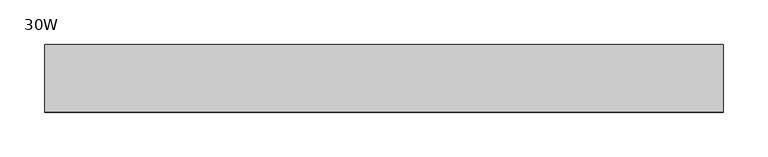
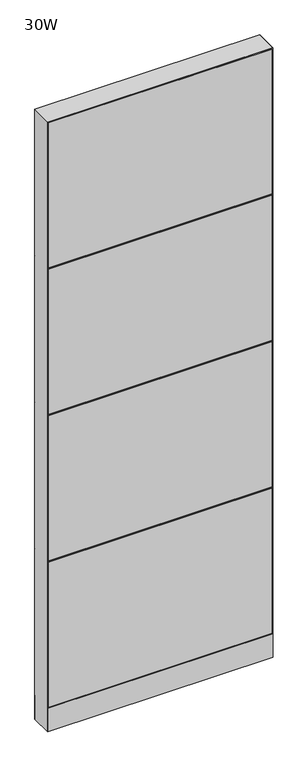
"""IFC4 building model written with IfcOpenShell, lengths in millimetres: furniture geometry, Steelcase - Montage - Frame - 86H - Enhanced Standard - Base Cavity : 30W."""

from ifc_helpers import new_model, si_unit, point, frame, frame_2d, origin, origin_with_axes, place, context, project, spatial, polyline, circle_curve, trimmed, segment, composite_curve, outline, extrude, faceted_brep, source, transform, mapped, element, save


def furniture_30w_c2f0a0af(model_context):
    return source(origin(), model_context, "Body", "SolidModel", [
        faceted_brep([(-5.4e-06, 38.102627, 1136.6500027), (6.3499917, 31.7526299, 1142.9999997), (755.6500047, 31.7526299, 1142.9999997), (762.0, 38.1026253, 1136.6500044), (755.6500047, 31.7526299, 1130.3000003), (6.3499917, 31.7526299, 1130.3000003)], [[[0, 1, 2, 3]], [[3, 4, 5, 0]], [[1, 5, 4, 2]], [[0, 5, 1]], [[2, 4, 3]]]),
        faceted_brep([(-5.4e-06, 38.102627, 612.7750027), (6.3499917, 31.7526299, 619.1249997), (755.6500047, 31.7526299, 619.1249997), (762.0, 38.1026253, 612.7750044), (755.6500047, 31.7526299, 606.4250003), (6.3499917, 31.7526299, 606.4250003)], [[[0, 1, 2, 3]], [[3, 4, 5, 0]], [[1, 5, 4, 2]], [[0, 5, 1]], [[2, 4, 3]]]),
        faceted_brep([(-5.4e-06, 38.102627, 1660.5250027), (6.3499917, 31.7526299, 1666.8749997), (755.6500047, 31.7526299, 1666.8749997), (762.0, 38.1026253, 1660.5250044), (755.6500047, 31.7526299, 1654.1750003), (6.3499917, 31.7526299, 1654.1750003)], [[[0, 1, 2, 3]], [[3, 4, 5, 0]], [[1, 5, 4, 2]], [[0, 5, 1]], [[2, 4, 3]]]),
        extrude(outline(polyline([(3.175, 31.7500194), (3.175, 38.1000194), (758.825, 38.1000194), (758.825, 31.7500194), (3.175, 31.7500194)])), frame((0.0, 0.0, 1663.7), z_axis=(0.0, 0.0, 1.0), x_axis=(1.0, 0.0, 0.0)), (0.0, 0.0, 1.0), 517.525),
        extrude(outline(polyline([(3.175, 31.7500194), (3.175, 38.1000194), (758.825, 38.1000194), (758.825, 31.7500194), (3.175, 31.7500194)])), frame((0.0, 0.0, 92.075), z_axis=(0.0, 0.0, 1.0), x_axis=(1.0, 0.0, 0.0)), (0.0, 0.0, 1.0), 517.525),
        extrude(outline(polyline([(3.175, 31.7500194), (3.175, 38.1000194), (758.825, 38.1000194), (758.825, 31.7500194), (3.175, 31.7500194)])), frame((0.0, 0.0, 615.95), z_axis=(0.0, 0.0, 1.0), x_axis=(1.0, 0.0, 0.0)), (0.0, 0.0, 1.0), 517.525),
        extrude(outline(polyline([(3.175, 31.7500194), (3.175, 38.1000194), (758.825, 38.1000194), (758.825, 31.7500194), (3.175, 31.7500194)])), frame((0.0, 0.0, 1139.825), z_axis=(0.0, 0.0, 1.0), x_axis=(1.0, 0.0, 0.0)), (0.0, 0.0, 1.0), 517.525),
        faceted_brep([(0.0, -38.1026297, 1136.65), (762.0, -38.1026297, 1136.65), (755.6500047, -31.7526299, 1142.9999997), (6.3499917, -31.7526299, 1142.9999997), (6.3499917, -31.7526299, 1130.3000003), (755.6500047, -31.7526299, 1130.3000003)], [[[0, 1, 2, 3]], [[1, 0, 4, 5]], [[3, 2, 5, 4]], [[0, 3, 4]], [[2, 1, 5]]]),
        faceted_brep([(0.0, -38.1026297, 612.775), (762.0, -38.1026297, 612.775), (755.6500047, -31.7526299, 619.1249997), (6.3499917, -31.7526299, 619.1249997), (6.3499917, -31.7526299, 606.4250003), (755.6500047, -31.7526299, 606.4250003)], [[[0, 1, 2, 3]], [[1, 0, 4, 5]], [[3, 2, 5, 4]], [[0, 3, 4]], [[2, 1, 5]]]),
        faceted_brep([(0.0, -38.1026297, 1660.525), (762.0, -38.1026297, 1660.525), (755.6500047, -31.7526299, 1666.8749997), (6.3499917, -31.7526299, 1666.8749997), (6.3499917, -31.7526299, 1654.1750003), (755.6500047, -31.7526299, 1654.1750003)], [[[0, 1, 2, 3]], [[1, 0, 4, 5]], [[3, 2, 5, 4]], [[0, 3, 4]], [[2, 1, 5]]]),
        extrude(outline(polyline([(3.175, -31.7500194), (758.825, -31.7500194), (758.825, -38.1000194), (3.175, -38.1000194), (3.175, -31.7500194)])), frame((0.0, 0.0, 1663.7), z_axis=(0.0, 0.0, 1.0), x_axis=(1.0, 0.0, 0.0)), (0.0, 0.0, 1.0), 517.525),
        extrude(outline(polyline([(3.175, -31.7500194), (758.825, -31.7500194), (758.825, -38.1000194), (3.175, -38.1000194), (3.175, -31.7500194)])), frame((0.0, 0.0, 92.075), z_axis=(0.0, 0.0, 1.0), x_axis=(1.0, 0.0, 0.0)), (0.0, 0.0, 1.0), 517.525),
        extrude(outline(polyline([(3.175, -31.7500194), (758.825, -31.7500194), (758.825, -38.1000194), (3.175, -38.1000194), (3.175, -31.7500194)])), frame((0.0, 0.0, 615.95), z_axis=(0.0, 0.0, 1.0), x_axis=(1.0, 0.0, 0.0)), (0.0, 0.0, 1.0), 517.525),
        extrude(outline(polyline([(3.175, -31.7500194), (758.825, -31.7500194), (758.825, -38.1000194), (3.175, -38.1000194), (3.175, -31.7500194)])), frame((0.0, 0.0, 1139.825), z_axis=(0.0, 0.0, 1.0), x_axis=(1.0, 0.0, 0.0)), (0.0, 0.0, 1.0), 517.525),
        extrude(outline(polyline([(6.350003, -31.7499985), (755.649997, -31.7499985), (762.0, -38.1000015), (0.0, -38.1000015), (6.350003, -31.7499985)])), frame((0.0, 0.0, 4.064), z_axis=(0.0, 0.0, 1.0), x_axis=(1.0, 0.0, 0.0)), (0.0, 0.0, 1.0), 84.835997),
        extrude(outline(polyline([(6.3500002, 31.7500017), (0.0, 38.1000015), (762.0, 38.1000015), (755.6500002, 31.7500017), (6.3500002, 31.7500017)])), frame((0.0, 0.0, 4.064), z_axis=(0.0, 0.0, 1.0), x_axis=(1.0, 0.0, 0.0)), (0.0, 0.0, 1.0), 84.835997),
        faceted_brep([(762.0, -38.1000015, 2184.4), (0.0, -38.1000015, 2184.4), (6.3500484, -31.749953, 2178.0499516), (755.6499516, -31.749953, 2178.0499516), (6.3500484, 31.749953, 2178.0499516), (755.6499516, 31.749953, 2178.0499516), (0.0, 38.1000015, 2184.4), (762.0, 38.1000015, 2184.4)], [[[0, 1, 2, 3]], [[3, 2, 4, 5]], [[6, 7, 5, 4]], [[1, 0, 7, 6]], [[2, 1, 6, 4]], [[0, 3, 5, 7]]]),
        extrude(outline(composite_curve([segment(trimmed(circle_curve(frame_2d((44.45, 0.0)), 15.24), [point((29.21, 0.0))], [point((59.69, 0.0))], False, "CARTESIAN"), True, "CONTINUOUS"), segment(trimmed(circle_curve(frame_2d((44.45, 0.0)), 15.24), [point((59.69, 0.0))], [point((29.21, 0.0))], False, "CARTESIAN"), True, "CONTINUOUS")], self_intersect=False)), origin_with_axes(), (0.0, 0.0, 1.0), 4.064),
        extrude(outline(composite_curve([segment(trimmed(circle_curve(frame_2d((717.55, 0.0)), 15.24), [point((702.31, 0.0))], [point((732.79, 0.0))], False, "CARTESIAN"), True, "CONTINUOUS"), segment(trimmed(circle_curve(frame_2d((717.55, 0.0)), 15.24), [point((732.79, 0.0))], [point((702.31, 0.0))], False, "CARTESIAN"), True, "CONTINUOUS")], self_intersect=False)), origin_with_axes(), (0.0, 0.0, 1.0), 4.064),
        faceted_brep([(762.0, -38.1000106, 4.064), (762.0, 38.1000015, 4.064), (762.0, 38.1000015, 2184.4), (762.0, -38.1000106, 2184.3999637), (0.0, 38.1000015, 4.064), (0.0, -38.1000015, 4.064), (0.0, -38.1000015, 2184.4), (0.0, 38.1000015, 2184.4), (755.6499879, 31.7500017, 606.425), (6.35, 31.7500017, 606.425), (6.3499998, 31.7500017, 619.125), (755.6499879, 31.7500017, 619.125), (6.35, -31.7499985, 619.125), (755.6499879, -31.7499985, 619.125), (6.350003, -31.7499985, 606.425), (755.6499879, -31.7499985, 606.425), (755.6499879, 31.7500017, 1130.3), (6.35, 31.7500017, 1130.3), (6.3499998, 31.7500017, 1143.0), (755.6499879, 31.7500017, 1143.0), (6.35, -31.7499985, 1143.0), (755.6499879, -31.7499985, 1143.0), (6.350003, -31.7499985, 1130.3), (755.6499879, -31.7499985, 1130.3), (755.6499879, 31.7500017, 1654.175), (6.35, 31.7500017, 1654.175), (6.3499998, 31.7500017, 1666.875), (755.6499879, 31.7500017, 1666.875), (6.35, -31.7499985, 1666.875), (755.6499879, -31.7499985, 1666.875), (6.350003, -31.7499985, 1654.175), (755.6499879, -31.7499985, 1654.175), (6.35, 31.7500015, 4.064), (6.35, -31.7500015, 4.064), (755.6499879, 31.7499894, 4.064), (755.6499879, -31.7499985, 4.064), (6.35, 31.7500015, 2178.05), (6.35, -31.7500015, 2178.05), (755.6499879, -31.7499985, 2178.0499516), (755.6499879, 31.7499895, 2178.0499516)], [[[0, 1, 2, 3]], [[4, 5, 6, 7]], [[8, 9, 10, 11]], [[11, 10, 12, 13]], [[13, 12, 14, 15]], [[9, 8, 15, 14]], [[16, 17, 18, 19]], [[19, 18, 20, 21]], [[21, 20, 22, 23]], [[17, 16, 23, 22]], [[24, 25, 26, 27]], [[27, 26, 28, 29]], [[29, 28, 30, 31]], [[25, 24, 31, 30]], [[32, 33, 5, 4]], [[34, 1, 0, 35]], [[32, 4, 7, 36, 26, 25, 18, 17, 10, 9]], [[5, 33, 14, 12, 22, 20, 30, 28, 37, 6]], [[28, 26, 36, 37]], [[33, 32, 9, 14]], [[18, 25, 30, 20]], [[10, 17, 22, 12]], [[27, 29, 38, 39]], [[34, 35, 15, 8]], [[16, 11, 13, 23]], [[24, 19, 21, 31]], [[35, 0, 3, 38, 29, 31, 21, 23, 13, 15]], [[1, 34, 8, 11, 16, 19, 24, 27, 39, 2]], [[7, 6, 37, 36]], [[3, 2, 39, 38]]]),
    ])


if __name__ == "__main__":
    model = new_model("IFC4")
    model_context = context("Model", 3, world=origin())
    ifc_project = project(units=[si_unit("LENGTHUNIT", "METRE", prefix="MILLI")], contexts=[model_context])
    site = spatial("IfcSite", under=ifc_project)
    building = spatial("IfcBuilding", under=site)
    placement = place(None, origin())
    furniture_30w_shape = furniture_30w_c2f0a0af(model_context)
    element("IfcFurniture", 1, ObjectType="Steelcase - Montage - Frame - 86H - Enhanced Standard - Base Cavity : 30W", at=placement, inside=building, context=model_context, shape_type="MappedRepresentation", body=[
        mapped(furniture_30w_shape, transform((0.0, 0.0, 0.0), x_axis=(1.0, 0.0, 0.0), y_axis=(0.0, 1.0, 0.0), z_axis=(0.0, 0.0, 1.0))),
    ])
    save(model, "model.ifc")
